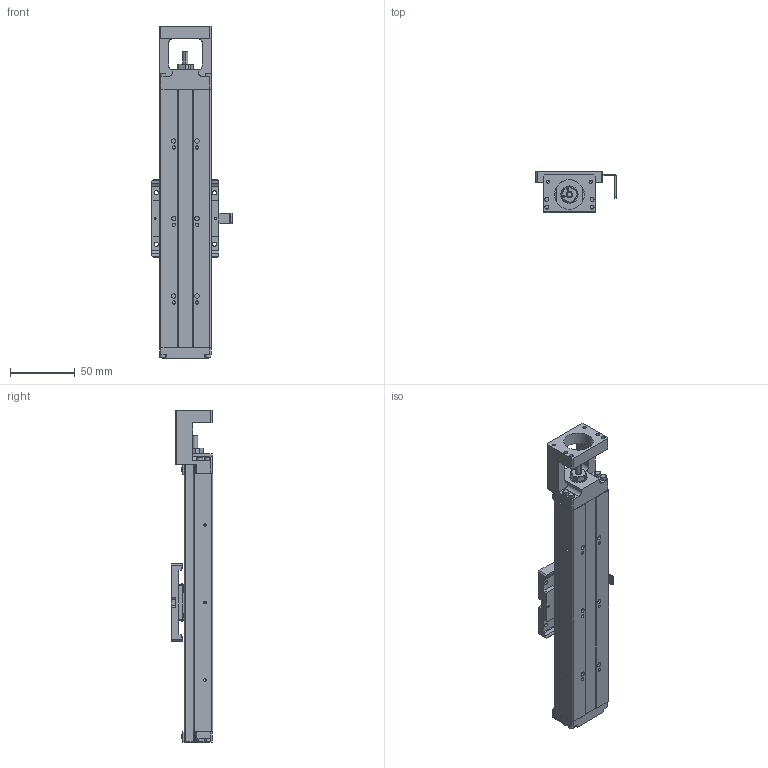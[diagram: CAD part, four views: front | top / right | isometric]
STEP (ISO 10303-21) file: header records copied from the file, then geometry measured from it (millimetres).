
FILE_DESCRIPTION (( 'STEP AP203' ), '1' );
FILE_NAME ('GKAC2040-130-12N-P2-CXXXX-網站用圖.STEP', '2023-04-19T04:20:01', ( '' ), ( '' ), 'SwSTEP 2.0', 'SolidWorks 2019', '' );
FILE_SCHEMA (( 'CONFIG_CONTROL_DESIGN' ));
Length unit declared in the file: millimetre
Products named in the file (3): Group1^GKAC2040-130-12N-P2-CXXXX_defeature-網站用圖_GMT; GKAC2040-130-12N-P2-CXXXX-網站用圖; Group2^GKAC2040-130-12N-P2-CXXXX_defeature-網站用圖_GMT
Assembly tree (2 placements, depth 2):
  GKAC2040-130-12N-P2-CXXXX-網站用圖
    Group1^GKAC2040-130-12N-P2-CXXXX_defeature-網站用圖_GMT
    Group2^GKAC2040-130-12N-P2-CXXXX_defeature-網站用圖_GMT
Bounding box: 62.2 x 32 x 257 mm (x, y, z)
Volume: 150043.8 mm3; surface area: 100617 mm2
Topology: 28 solids, 33 shells, 2529 faces, 6563 edges, 4121 vertices
Faces by surface type: cylinder 820, plane 812, cone 700, torus 123, sphere 72, bspline 2
Entity records: 78317 total; most frequent: DIRECTION 14498, CARTESIAN_POINT 14478, ORIENTED_EDGE 12890, EDGE_CURVE 6445, AXIS2_PLACEMENT_3D 5835, VERTEX_POINT 4097, CIRCLE 3303, VECTOR 2828
